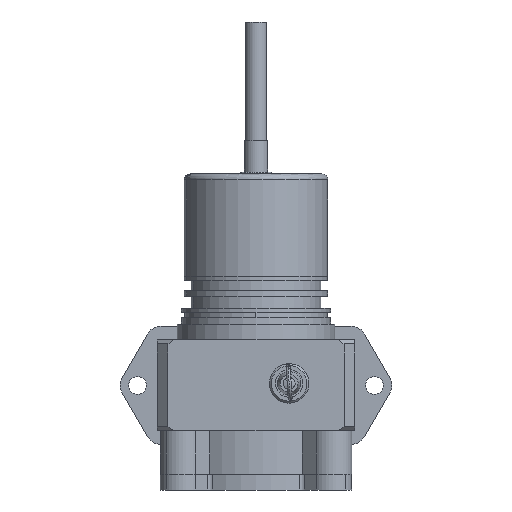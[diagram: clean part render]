
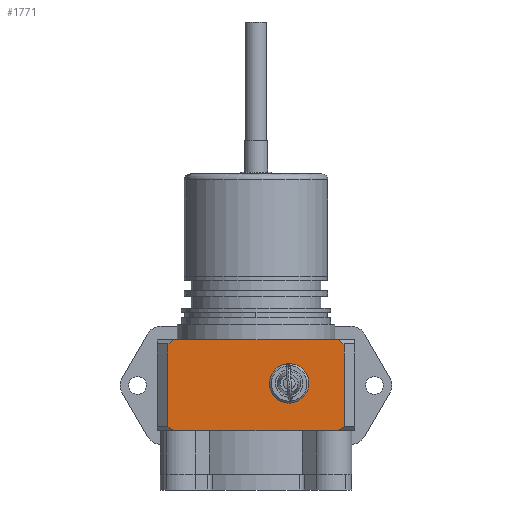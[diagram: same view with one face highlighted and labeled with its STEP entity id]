
A CAD part, front view. The second image highlights one B-rep face of the part: STEP entity #1771.
In plain terms, the highlighted planar face has unit normal (0, -1, 0).
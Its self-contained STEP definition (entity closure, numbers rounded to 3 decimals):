
#1488 = VERTEX_POINT ( 'NONE', #9208 ) ;
#1490 = EDGE_CURVE ( 'NONE', #1712, #1488, #9207, .T. ) ;
#1502 = EDGE_CURVE ( 'NONE', #1503, #1961, #9058, .T. ) ;
#1503 = VERTEX_POINT ( 'NONE', #9157 ) ;
#1676 = VERTEX_POINT ( 'NONE', #9690 ) ;
#1678 = EDGE_CURVE ( 'NONE', #1676, #1679, #9689, .T. ) ;
#1679 = VERTEX_POINT ( 'NONE', #9684 ) ;
#1710 = EDGE_CURVE ( 'NONE', #1711, #1712, #10104, .T. ) ;
#1711 = VERTEX_POINT ( 'NONE', #10096 ) ;
#1712 = VERTEX_POINT ( 'NONE', #10095 ) ;
#1771 = ADVANCED_FACE ( 'NONE', ( #10314, #10313 ), #10191, .T. ) ;
#1772 = EDGE_LOOP ( 'NONE', ( #1773, #1927 ) ) ;
#1773 = ORIENTED_EDGE ( 'NONE', *, *, #1926, .F. ) ;
#1926 = EDGE_CURVE ( 'NONE', #1679, #1676, #10634, .T. ) ;
#1927 = ORIENTED_EDGE ( 'NONE', *, *, #1678, .F. ) ;
#1928 = EDGE_LOOP ( 'NONE', ( #1929, #1930, #1933, #1936, #1938, #1939, #1940, #1942 ) ) ;
#1929 = ORIENTED_EDGE ( 'NONE', *, *, #1960, .T. ) ;
#1930 = ORIENTED_EDGE ( 'NONE', *, *, #1931, .T. ) ;
#1931 = EDGE_CURVE ( 'NONE', #1958, #1932, #10629, .T. ) ;
#1932 = VERTEX_POINT ( 'NONE', #10625 ) ;
#1933 = ORIENTED_EDGE ( 'NONE', *, *, #1934, .F. ) ;
#1934 = EDGE_CURVE ( 'NONE', #1935, #1932, #10624, .T. ) ;
#1935 = VERTEX_POINT ( 'NONE', #10620 ) ;
#1936 = ORIENTED_EDGE ( 'NONE', *, *, #1937, .T. ) ;
#1937 = EDGE_CURVE ( 'NONE', #1935, #1711, #10619, .T. ) ;
#1938 = ORIENTED_EDGE ( 'NONE', *, *, #1710, .T. ) ;
#1939 = ORIENTED_EDGE ( 'NONE', *, *, #1490, .T. ) ;
#1940 = ORIENTED_EDGE ( 'NONE', *, *, #1941, .F. ) ;
#1941 = EDGE_CURVE ( 'NONE', #1503, #1488, #10765, .T. ) ;
#1942 = ORIENTED_EDGE ( 'NONE', *, *, #1502, .T. ) ;
#1958 = VERTEX_POINT ( 'NONE', #10725 ) ;
#1960 = EDGE_CURVE ( 'NONE', #1961, #1958, #10724, .T. ) ;
#1961 = VERTEX_POINT ( 'NONE', #10720 ) ;
#9058 = LINE ( 'NONE', #9160, #9159 ) ;
#9157 = CARTESIAN_POINT ( 'NONE',  ( -20.886, -25., 19. ) ) ;
#9158 = DIRECTION ( 'NONE',  ( -0.816, 0., -0.577 ) ) ;
#9159 = VECTOR ( 'NONE', #9158, 1000. ) ;
#9160 = CARTESIAN_POINT ( 'NONE',  ( -20.886, -25., 19. ) ) ;
#9204 = DIRECTION ( 'NONE',  ( -0.816, 0., 0.577 ) ) ;
#9205 = VECTOR ( 'NONE', #9204, 1000. ) ;
#9206 = CARTESIAN_POINT ( 'NONE',  ( 22.3, -25., 18. ) ) ;
#9207 = LINE ( 'NONE', #9206, #9205 ) ;
#9208 = CARTESIAN_POINT ( 'NONE',  ( 20.886, -25., 19. ) ) ;
#9684 = CARTESIAN_POINT ( 'NONE',  ( 8.4, -25., 6.368 ) ) ;
#9685 = DIRECTION ( 'NONE',  ( 0., 0., -1. ) ) ;
#9686 = DIRECTION ( 'NONE',  ( 0., -1., 0. ) ) ;
#9687 = CARTESIAN_POINT ( 'NONE',  ( 8.4, -25., 8. ) ) ;
#9688 = AXIS2_PLACEMENT_3D ( 'NONE', #9687, #9686, #9685 ) ;
#9689 = CIRCLE ( 'NONE', #9688, 1.632 ) ;
#9690 = CARTESIAN_POINT ( 'NONE',  ( 8.4, -25., 9.632 ) ) ;
#10095 = CARTESIAN_POINT ( 'NONE',  ( 22.3, -25., 18. ) ) ;
#10096 = CARTESIAN_POINT ( 'NONE',  ( 22.3, -25., -3. ) ) ;
#10097 = DIRECTION ( 'NONE',  ( 0., 0., 1. ) ) ;
#10098 = VECTOR ( 'NONE', #10097, 1000. ) ;
#10099 = CARTESIAN_POINT ( 'NONE',  ( 22.3, -25., 9.5 ) ) ;
#10104 = LINE ( 'NONE', #10099, #10098 ) ;
#10187 = DIRECTION ( 'NONE',  ( 0., 0., -1. ) ) ;
#10188 = DIRECTION ( 'NONE',  ( 0., -1., 0. ) ) ;
#10189 = CARTESIAN_POINT ( 'NONE',  ( -22.3, -25., 19. ) ) ;
#10190 = AXIS2_PLACEMENT_3D ( 'NONE', #10189, #10188, #10187 ) ;
#10191 = PLANE ( 'NONE',  #10190 ) ;
#10313 = FACE_OUTER_BOUND ( 'NONE', #1928, .T. ) ;
#10314 = FACE_BOUND ( 'NONE', #1772, .T. ) ;
#10616 = DIRECTION ( 'NONE',  ( 0.816, 0., 0.577 ) ) ;
#10617 = VECTOR ( 'NONE', #10616, 1000. ) ;
#10618 = CARTESIAN_POINT ( 'NONE',  ( 2.938, -25., -16.691 ) ) ;
#10619 = LINE ( 'NONE', #10618, #10617 ) ;
#10620 = CARTESIAN_POINT ( 'NONE',  ( 20.886, -25., -4. ) ) ;
#10621 = DIRECTION ( 'NONE',  ( -1., 0., 0. ) ) ;
#10622 = VECTOR ( 'NONE', #10621, 1000. ) ;
#10623 = CARTESIAN_POINT ( 'NONE',  ( 22.3, -25., -4. ) ) ;
#10624 = LINE ( 'NONE', #10623, #10622 ) ;
#10625 = CARTESIAN_POINT ( 'NONE',  ( -20.886, -25., -4. ) ) ;
#10626 = DIRECTION ( 'NONE',  ( 0.816, 0., -0.577 ) ) ;
#10627 = VECTOR ( 'NONE', #10626, 1000. ) ;
#10628 = CARTESIAN_POINT ( 'NONE',  ( -32.671, -25., 4.333 ) ) ;
#10629 = LINE ( 'NONE', #10628, #10627 ) ;
#10630 = DIRECTION ( 'NONE',  ( 0., 0., -1. ) ) ;
#10631 = DIRECTION ( 'NONE',  ( 0., -1., 0. ) ) ;
#10632 = CARTESIAN_POINT ( 'NONE',  ( 8.4, -25., 8. ) ) ;
#10633 = AXIS2_PLACEMENT_3D ( 'NONE', #10632, #10631, #10630 ) ;
#10634 = CIRCLE ( 'NONE', #10633, 1.632 ) ;
#10720 = CARTESIAN_POINT ( 'NONE',  ( -22.3, -25., 18. ) ) ;
#10721 = DIRECTION ( 'NONE',  ( 0., 0., -1. ) ) ;
#10722 = VECTOR ( 'NONE', #10721, 1000. ) ;
#10723 = CARTESIAN_POINT ( 'NONE',  ( -22.3, -25., 9.5 ) ) ;
#10724 = LINE ( 'NONE', #10723, #10722 ) ;
#10725 = CARTESIAN_POINT ( 'NONE',  ( -22.3, -25., -3. ) ) ;
#10762 = DIRECTION ( 'NONE',  ( 1., 0., 0. ) ) ;
#10763 = VECTOR ( 'NONE', #10762, 1000. ) ;
#10764 = CARTESIAN_POINT ( 'NONE',  ( 0., -25., 19. ) ) ;
#10765 = LINE ( 'NONE', #10764, #10763 ) ;
